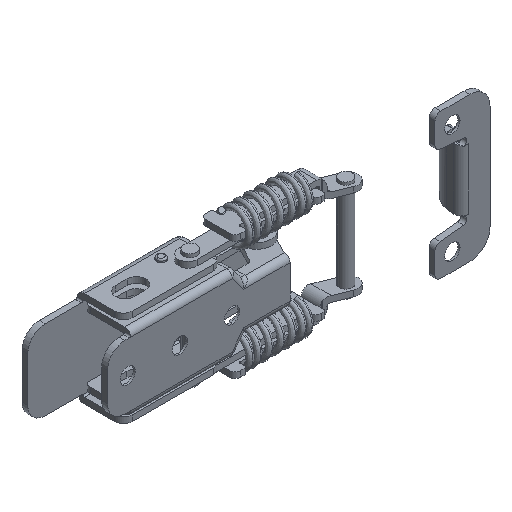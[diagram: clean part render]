
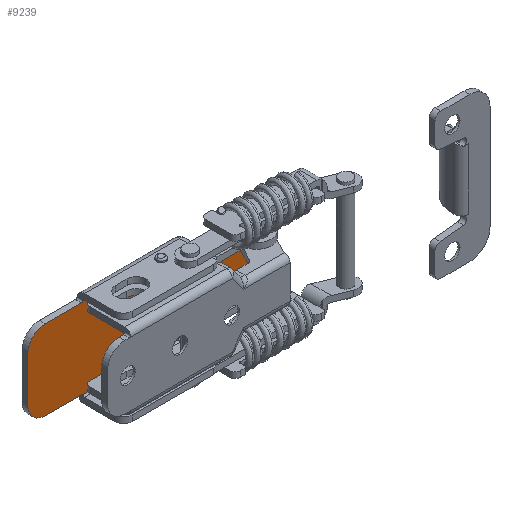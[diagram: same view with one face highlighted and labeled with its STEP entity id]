
A CAD part, isometric view. The second image highlights one B-rep face of the part: STEP entity #9239.
In plain terms, the highlighted planar face has unit normal (0, -1, 0) as drawn and (0, 1, 0) by its records, which use the part's own axes.
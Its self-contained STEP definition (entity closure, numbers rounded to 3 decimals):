
#56 = LINE ( 'NONE', #13715, #6907 ) ;
#276 = LINE ( 'NONE', #6581, #3937 ) ;
#773 = ORIENTED_EDGE ( 'NONE', *, *, #5076, .F. ) ;
#866 = ORIENTED_EDGE ( 'NONE', *, *, #15005, .T. ) ;
#891 = CIRCLE ( 'NONE', #7861, 0.5 ) ;
#1239 = DIRECTION ( 'NONE',  ( 0., 0., -1. ) ) ;
#1297 = DIRECTION ( 'NONE',  ( 0., -1., 0. ) ) ;
#1300 = CIRCLE ( 'NONE', #15702, 6. ) ;
#1419 = DIRECTION ( 'NONE',  ( 1., 0., 0. ) ) ;
#1534 = VERTEX_POINT ( 'NONE', #6928 ) ;
#1923 = LINE ( 'NONE', #19064, #13860 ) ;
#2121 = CARTESIAN_POINT ( 'NONE',  ( -74., 2., -7.75 ) ) ;
#2274 = DIRECTION ( 'NONE',  ( -0.678, 0., 0.735 ) ) ;
#2356 = ORIENTED_EDGE ( 'NONE', *, *, #13457, .F. ) ;
#2937 = CARTESIAN_POINT ( 'NONE',  ( -22.095, 2., 7.5 ) ) ;
#3361 = CARTESIAN_POINT ( 'NONE',  ( 0., 2., -7.5 ) ) ;
#3476 = VECTOR ( 'NONE', #6495, 1000. ) ;
#3521 = VECTOR ( 'NONE', #2274, 1000. ) ;
#3561 = CARTESIAN_POINT ( 'NONE',  ( -80., 2., -7.75 ) ) ;
#3691 = DIRECTION ( 'NONE',  ( 0., 0., -1. ) ) ;
#3842 = CARTESIAN_POINT ( 'NONE',  ( -22.837, 2., 8.304 ) ) ;
#3937 = VECTOR ( 'NONE', #17466, 1000. ) ;
#4138 = ORIENTED_EDGE ( 'NONE', *, *, #18936, .F. ) ;
#4732 = EDGE_CURVE ( 'NONE', #5755, #16229, #1923, .T. ) ;
#4817 = PLANE ( 'NONE',  #13865 ) ;
#4874 = CARTESIAN_POINT ( 'NONE',  ( -74., 2., 7.75 ) ) ;
#4969 = VERTEX_POINT ( 'NONE', #19810 ) ;
#5039 = ORIENTED_EDGE ( 'NONE', *, *, #5326, .T. ) ;
#5076 = EDGE_CURVE ( 'NONE', #12949, #8550, #11881, .T. ) ;
#5301 = CIRCLE ( 'NONE', #16711, 6. ) ;
#5326 = EDGE_CURVE ( 'NONE', #11215, #4969, #5301, .T. ) ;
#5551 = ORIENTED_EDGE ( 'NONE', *, *, #18881, .T. ) ;
#5754 = CARTESIAN_POINT ( 'NONE',  ( -80., 2., 7.75 ) ) ;
#5755 = VERTEX_POINT ( 'NONE', #18522 ) ;
#5873 = EDGE_CURVE ( 'NONE', #7132, #9914, #15542, .T. ) ;
#6144 = CIRCLE ( 'NONE', #10487, 0.5 ) ;
#6221 = CARTESIAN_POINT ( 'NONE',  ( 0., 2., 7.5 ) ) ;
#6394 = DIRECTION ( 'NONE',  ( 0., 0., -1. ) ) ;
#6461 = DIRECTION ( 'NONE',  ( 0., 0., -1. ) ) ;
#6495 = DIRECTION ( 'NONE',  ( 1., 0., 0. ) ) ;
#6542 = EDGE_CURVE ( 'NONE', #10348, #15173, #891, .T. ) ;
#6581 = CARTESIAN_POINT ( 'NONE',  ( 0., 2., 14. ) ) ;
#6749 = ORIENTED_EDGE ( 'NONE', *, *, #6542, .T. ) ;
#6832 = DIRECTION ( 'NONE',  ( 0., -1., 0. ) ) ;
#6907 = VECTOR ( 'NONE', #1239, 1000. ) ;
#6928 = CARTESIAN_POINT ( 'NONE',  ( -28.095, 2., 14. ) ) ;
#7132 = VERTEX_POINT ( 'NONE', #12229 ) ;
#7718 = CARTESIAN_POINT ( 'NONE',  ( -28.837, 2., -14.804 ) ) ;
#7742 = EDGE_CURVE ( 'NONE', #9914, #1534, #15949, .T. ) ;
#7768 = ORIENTED_EDGE ( 'NONE', *, *, #8453, .T. ) ;
#7861 = AXIS2_PLACEMENT_3D ( 'NONE', #10627, #1297, #12175 ) ;
#8115 = ORIENTED_EDGE ( 'NONE', *, *, #7742, .F. ) ;
#8130 = DIRECTION ( 'NONE',  ( -1., 0., 0. ) ) ;
#8453 = EDGE_CURVE ( 'NONE', #16229, #16978, #1300, .T. ) ;
#8550 = VERTEX_POINT ( 'NONE', #11640 ) ;
#8929 = DIRECTION ( 'NONE',  ( 1., 0., 0. ) ) ;
#9186 = CARTESIAN_POINT ( 'NONE',  ( 0., 2., -14. ) ) ;
#9192 = CARTESIAN_POINT ( 'NONE',  ( -61.067, 2., 14. ) ) ;
#9239 = ADVANCED_FACE ( 'NONE', ( #14200 ), #4817, .F. ) ;
#9914 = VERTEX_POINT ( 'NONE', #2937 ) ;
#10282 = ORIENTED_EDGE ( 'NONE', *, *, #19329, .F. ) ;
#10348 = VERTEX_POINT ( 'NONE', #11364 ) ;
#10369 = CARTESIAN_POINT ( 'NONE',  ( -80., 2., 0. ) ) ;
#10487 = AXIS2_PLACEMENT_3D ( 'NONE', #16163, #6832, #17710 ) ;
#10627 = CARTESIAN_POINT ( 'NONE',  ( -61.5, 2., 14.25 ) ) ;
#10916 = DIRECTION ( 'NONE',  ( -1., 0., 0. ) ) ;
#11149 = VERTEX_POINT ( 'NONE', #15021 ) ;
#11215 = VERTEX_POINT ( 'NONE', #5754 ) ;
#11364 = CARTESIAN_POINT ( 'NONE',  ( -61.5, 2., 13.75 ) ) ;
#11390 = VECTOR ( 'NONE', #10916, 1000. ) ;
#11462 = ORIENTED_EDGE ( 'NONE', *, *, #5873, .F. ) ;
#11640 = CARTESIAN_POINT ( 'NONE',  ( -28.095, 2., -14. ) ) ;
#11881 = LINE ( 'NONE', #9186, #18698 ) ;
#12125 = ORIENTED_EDGE ( 'NONE', *, *, #18157, .T. ) ;
#12175 = DIRECTION ( 'NONE',  ( 0., 0., -1. ) ) ;
#12229 = CARTESIAN_POINT ( 'NONE',  ( 0., 2., 7.5 ) ) ;
#12577 = CARTESIAN_POINT ( 'NONE',  ( 0., 2., 0. ) ) ;
#12949 = VERTEX_POINT ( 'NONE', #19702 ) ;
#13018 = DIRECTION ( 'NONE',  ( 0., 1., 0. ) ) ;
#13455 = LINE ( 'NONE', #10369, #16137 ) ;
#13457 = EDGE_CURVE ( 'NONE', #11149, #14348, #15913, .T. ) ;
#13497 = DIRECTION ( 'NONE',  ( 0., 0., 1. ) ) ;
#13669 = VECTOR ( 'NONE', #8929, 1000. ) ;
#13706 = EDGE_CURVE ( 'NONE', #12949, #5755, #6144, .T. ) ;
#13715 = CARTESIAN_POINT ( 'NONE',  ( 0., 2., 0. ) ) ;
#13860 = VECTOR ( 'NONE', #8130, 1000. ) ;
#13865 = AXIS2_PLACEMENT_3D ( 'NONE', #12577, #15728, #6394 ) ;
#14200 = FACE_OUTER_BOUND ( 'NONE', #19764, .T. ) ;
#14348 = VERTEX_POINT ( 'NONE', #18519 ) ;
#15005 = EDGE_CURVE ( 'NONE', #4969, #10348, #17793, .T. ) ;
#15021 = CARTESIAN_POINT ( 'NONE',  ( -22.095, 2., -7.5 ) ) ;
#15112 = CARTESIAN_POINT ( 'NONE',  ( 0., 2., 13.75 ) ) ;
#15173 = VERTEX_POINT ( 'NONE', #9192 ) ;
#15542 = LINE ( 'NONE', #6221, #11390 ) ;
#15702 = AXIS2_PLACEMENT_3D ( 'NONE', #2121, #13018, #3691 ) ;
#15728 = DIRECTION ( 'NONE',  ( 0., -1., 0. ) ) ;
#15793 = DIRECTION ( 'NONE',  ( 0., 1., 0. ) ) ;
#15913 = LINE ( 'NONE', #3361, #3476 ) ;
#15949 = LINE ( 'NONE', #3842, #3521 ) ;
#16137 = VECTOR ( 'NONE', #13497, 1000. ) ;
#16163 = CARTESIAN_POINT ( 'NONE',  ( -61.5, 2., -14.25 ) ) ;
#16229 = VERTEX_POINT ( 'NONE', #18056 ) ;
#16711 = AXIS2_PLACEMENT_3D ( 'NONE', #4874, #15793, #6461 ) ;
#16978 = VERTEX_POINT ( 'NONE', #3561 ) ;
#17466 = DIRECTION ( 'NONE',  ( -1., 0., 0. ) ) ;
#17710 = DIRECTION ( 'NONE',  ( 0., 0., -1. ) ) ;
#17793 = LINE ( 'NONE', #15112, #13669 ) ;
#17843 = ORIENTED_EDGE ( 'NONE', *, *, #13706, .T. ) ;
#18056 = CARTESIAN_POINT ( 'NONE',  ( -74., 2., -13.75 ) ) ;
#18157 = EDGE_CURVE ( 'NONE', #7132, #14348, #56, .T. ) ;
#18163 = ORIENTED_EDGE ( 'NONE', *, *, #4732, .T. ) ;
#18519 = CARTESIAN_POINT ( 'NONE',  ( 0., 2., -7.5 ) ) ;
#18522 = CARTESIAN_POINT ( 'NONE',  ( -61.5, 2., -13.75 ) ) ;
#18585 = DIRECTION ( 'NONE',  ( 0.678, 0., 0.735 ) ) ;
#18698 = VECTOR ( 'NONE', #1419, 1000. ) ;
#18881 = EDGE_CURVE ( 'NONE', #16978, #11215, #13455, .T. ) ;
#18936 = EDGE_CURVE ( 'NONE', #8550, #11149, #19288, .T. ) ;
#19064 = CARTESIAN_POINT ( 'NONE',  ( 0., 2., -13.75 ) ) ;
#19288 = LINE ( 'NONE', #7718, #19784 ) ;
#19329 = EDGE_CURVE ( 'NONE', #1534, #15173, #276, .T. ) ;
#19702 = CARTESIAN_POINT ( 'NONE',  ( -61.067, 2., -14. ) ) ;
#19764 = EDGE_LOOP ( 'NONE', ( #5551, #5039, #866, #6749, #10282, #8115, #11462, #12125, #2356, #4138, #773, #17843, #18163, #7768 ) ) ;
#19784 = VECTOR ( 'NONE', #18585, 1000. ) ;
#19810 = CARTESIAN_POINT ( 'NONE',  ( -74., 2., 13.75 ) ) ;
